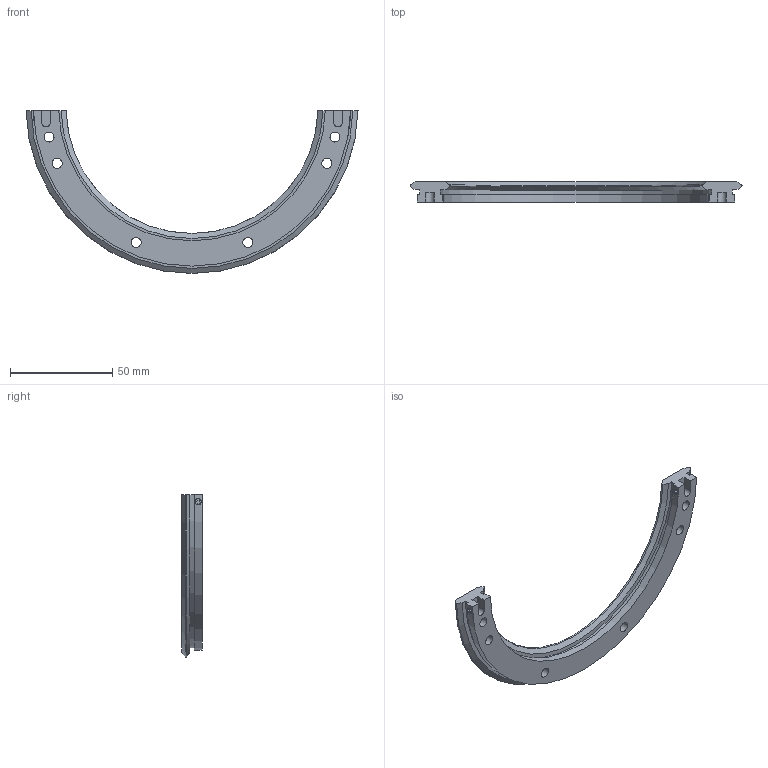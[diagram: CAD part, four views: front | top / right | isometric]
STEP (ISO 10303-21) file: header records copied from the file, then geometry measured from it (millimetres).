
FILE_DESCRIPTION( ( 'STEP AP203' ), '1' );
FILE_NAME( 'p:/temp/worker_32/temp/exporttempdir_3252_904_79nYI/format_0/TR20 143 R180.stp', '2021-09-17T07:38:17', ( 'License CC BY-ND 4.0' ), ( 'CADENAS' ), ' ', 'PARTsolutions', ' ' );
FILE_SCHEMA( ( 'CONFIG_CONTROL_DESIGN' ) );
Length unit declared in the file: millimetre
Products named in the file (1): _TR20 143 R180
Bounding box: 162.6 x 10 x 79.81 mm (x, y, z)
Volume: 28514.5 mm3; surface area: 14459.4 mm2
Topology: 1 solids, 1 shells, 80 faces, 195 edges, 131 vertices
Faces by surface type: plane 52, cylinder 22, cone 4, torus 2
Full cylindrical faces by diameter (mm): 3 x4, 4.9 x6, 8 x6
Entity records: 2536 total; most frequent: CARTESIAN_POINT 638, DIRECTION 370, ORIENTED_EDGE 352, EDGE_CURVE 176, AXIS2_PLACEMENT_3D 129, VERTEX_POINT 129, EDGE_LOOP 122, LINE 112
